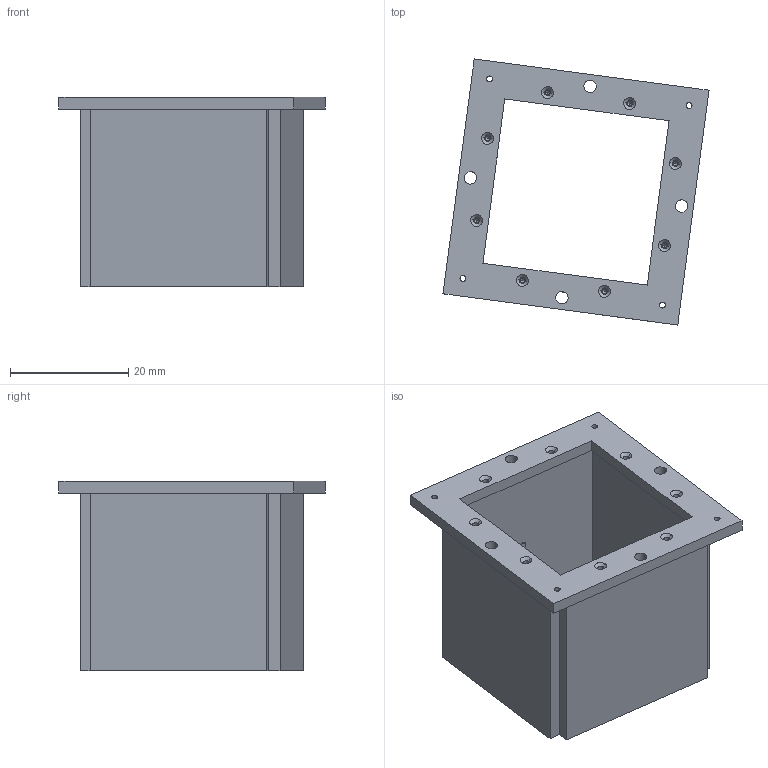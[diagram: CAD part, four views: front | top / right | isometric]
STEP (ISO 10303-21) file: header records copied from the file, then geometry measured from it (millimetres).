
FILE_DESCRIPTION (( 'STEP AP214' ), '1' );
FILE_NAME ('assieme cella_uscita.STEP', '2016-02-28T08:57:57', ( '' ), ( '' ), 'SwSTEP 2.0', 'SolidWorks 2012', '' );
FILE_SCHEMA (( 'AUTOMOTIVE_DESIGN' ));
Length unit declared in the file: millimetre
Products named in the file (3): G11; G_2_pla; assieme cella_uscita
Assembly tree (5 placements, depth 2):
  assieme cella_uscita
    G11  x4
    G_2_pla
Bounding box: 44.93 x 44.93 x 32 mm (x, y, z)
Volume: 8734.4 mm3; surface area: 10645.7 mm2
Topology: 5 solids, 5 shells, 449 faces, 1176 edges, 776 vertices
Faces by surface type: plane 149, bspline 148, cone 88, cylinder 64
Entity records: 9809 total; most frequent: CARTESIAN_POINT 4850, ORIENTED_EDGE 1074, DIRECTION 857, EDGE_CURVE 537, VERTEX_POINT 350, AXIS2_PLACEMENT_3D 289, LINE 279, VECTOR 279
